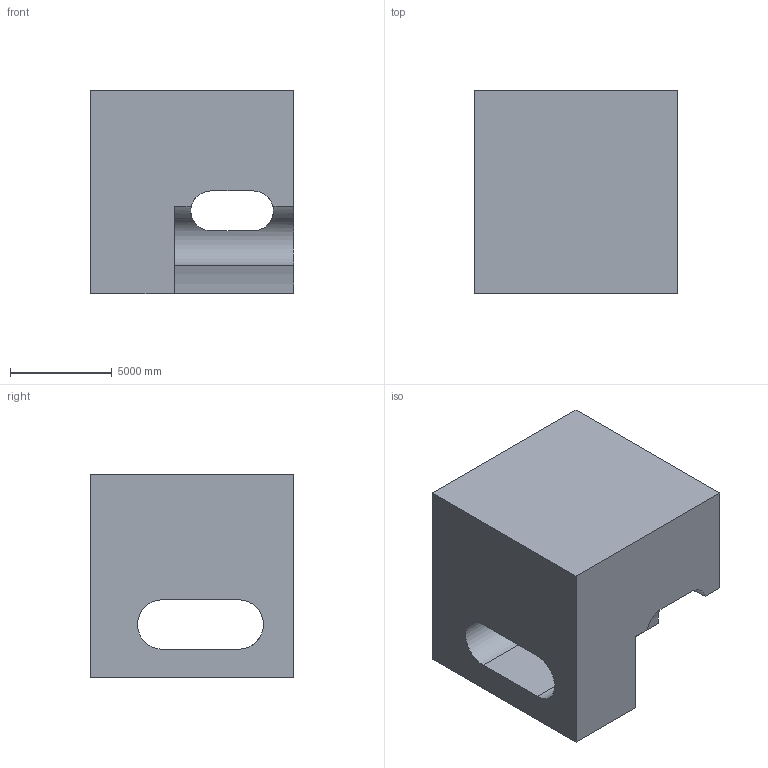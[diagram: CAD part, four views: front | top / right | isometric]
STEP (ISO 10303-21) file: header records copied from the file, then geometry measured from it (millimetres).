
FILE_DESCRIPTION (( 'STEP AP203' ), '1' );
FILE_NAME ('1206.STEP', '2022-08-25T14:45:52', ( 'user' ), ( '' ), 'SwSTEP 2.0', 'SolidWorks 2021', '' );
FILE_SCHEMA (( 'CONFIG_CONTROL_DESIGN' ));
Length unit declared in the file: centimetre
Products named in the file (1): 1206
Bounding box: 10000 x 10000 x 10000 mm (x, y, z)
Volume: 749167219573.1 mm3; surface area: 694358564.4 mm2
Topology: 1 solids, 1 shells, 20 faces, 60 edges, 40 vertices
Faces by surface type: plane 12, cylinder 8
Entity records: 1058 total; most frequent: CARTESIAN_POINT 429, ORIENTED_EDGE 120, DIRECTION 109, EDGE_CURVE 60, VECTOR 41, LINE 41, VERTEX_POINT 40, AXIS2_PLACEMENT_3D 34
